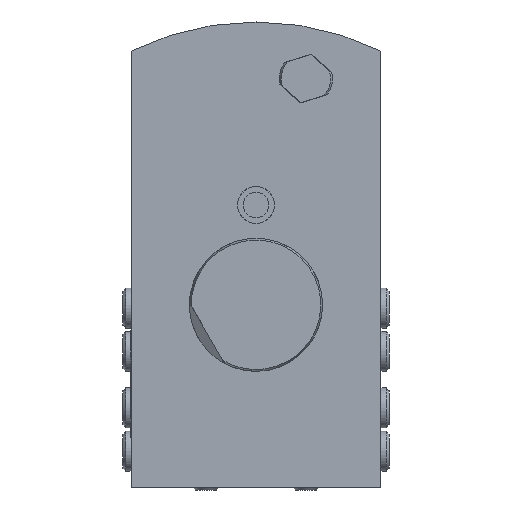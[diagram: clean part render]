
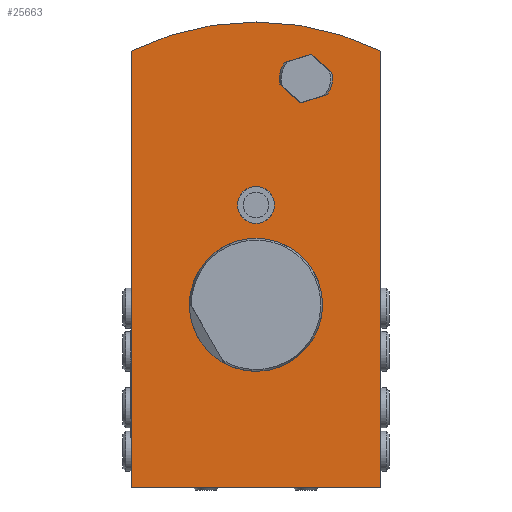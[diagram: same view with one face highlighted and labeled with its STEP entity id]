
A CAD part, left-side view. The second image highlights one B-rep face of the part: STEP entity #25663.
In plain terms, the highlighted planar face has unit normal (-1, 0, 0).
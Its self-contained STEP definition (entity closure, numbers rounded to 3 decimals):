
#11659=VECTOR('',#17983,1.);
#11743=VECTOR('',#18079,1.);
#11750=VECTOR('',#18100,1.);
#11752=VECTOR('',#18126,1.);
#11753=VECTOR('',#18127,1.);
#11754=VECTOR('',#18130,1.);
#11755=VECTOR('',#18131,1.);
#12210=LINE('',#19793,#11659);
#12294=LINE('',#20255,#11743);
#12301=LINE('',#20275,#11750);
#12303=LINE('',#20297,#11752);
#12304=LINE('',#20299,#11753);
#12305=LINE('',#20303,#11754);
#12306=LINE('',#20305,#11755);
#12750=PLANE('',#24972);
#13230=ORIENTED_EDGE('',*,*,#15901,.F.);
#13231=ORIENTED_EDGE('',*,*,#15757,.F.);
#13232=ORIENTED_EDGE('',*,*,#15883,.F.);
#13233=ORIENTED_EDGE('',*,*,#15894,.F.);
#13234=ORIENTED_EDGE('',*,*,#15902,.F.);
#13235=ORIENTED_EDGE('',*,*,#15903,.T.);
#13236=ORIENTED_EDGE('',*,*,#15904,.F.);
#13237=ORIENTED_EDGE('',*,*,#15905,.F.);
#13238=ORIENTED_EDGE('',*,*,#15906,.F.);
#13239=ORIENTED_EDGE('',*,*,#15907,.F.);
#13240=ORIENTED_EDGE('',*,*,#15908,.F.);
#13241=ORIENTED_EDGE('',*,*,#15909,.F.);
#14918=CIRCLE('',#24971,85.);
#14919=CIRCLE('',#24973,5.55);
#14920=CIRCLE('',#24974,20.);
#14921=CIRCLE('',#24975,8.);
#14922=CIRCLE('',#24976,8.);
#15079=VERTEX_POINT('',#19789);
#15081=VERTEX_POINT('',#19792);
#15205=VERTEX_POINT('',#20253);
#15211=VERTEX_POINT('',#20273);
#15216=VERTEX_POINT('',#20291);
#15217=VERTEX_POINT('',#20293);
#15218=VERTEX_POINT('',#20295);
#15219=VERTEX_POINT('',#20296);
#15220=VERTEX_POINT('',#20298);
#15221=VERTEX_POINT('',#20300);
#15222=VERTEX_POINT('',#20302);
#15223=VERTEX_POINT('',#20304);
#15757=EDGE_CURVE('',#15079,#15081,#12210,.T.);
#15883=EDGE_CURVE('',#15205,#15079,#12294,.T.);
#15894=EDGE_CURVE('',#15211,#15205,#12301,.T.);
#15901=EDGE_CURVE('',#15081,#15211,#14918,.T.);
#15902=EDGE_CURVE('',#15216,#15216,#14919,.T.);
#15903=EDGE_CURVE('',#15217,#15217,#14920,.T.);
#15904=EDGE_CURVE('',#15218,#15219,#12303,.T.);
#15905=EDGE_CURVE('',#15220,#15218,#12304,.T.);
#15906=EDGE_CURVE('',#15221,#15220,#14921,.T.);
#15907=EDGE_CURVE('',#15222,#15221,#12305,.T.);
#15908=EDGE_CURVE('',#15223,#15222,#12306,.T.);
#15909=EDGE_CURVE('',#15219,#15223,#14922,.T.);
#16717=EDGE_LOOP('',(#13230,#13231,#13232,#13233));
#16718=EDGE_LOOP('',(#13234));
#16719=EDGE_LOOP('',(#13235));
#16720=EDGE_LOOP('',(#13236,#13237,#13238,#13239,#13240,#13241));
#17345=FACE_BOUND('',#16717,.T.);
#17346=FACE_BOUND('',#16718,.T.);
#17347=FACE_BOUND('',#16719,.T.);
#17348=FACE_BOUND('',#16720,.T.);
#17983=DIRECTION('',(0.,0.,131.281));
#18079=DIRECTION('',(0.,75.,0.));
#18100=DIRECTION('',(0.,0.,-131.281));
#18118=DIRECTION('',(1.,0.,0.));
#18119=DIRECTION('',(0.,-8.064,84.617));
#18120=DIRECTION('',(-1.,0.,0.));
#18121=DIRECTION('',(0.,1.,0.));
#18122=DIRECTION('',(-1.,0.,0.));
#18123=DIRECTION('',(0.,0.,-5.55));
#18124=DIRECTION('',(1.,0.,0.));
#18125=DIRECTION('',(0.,-20.,0.));
#18126=DIRECTION('',(0.,8.027,-2.531));
#18127=DIRECTION('',(0.,6.205,5.686));
#18128=DIRECTION('',(-1.,0.,0.));
#18129=DIRECTION('',(0.,-6.402,-4.797));
#18130=DIRECTION('',(0.,-8.027,2.531));
#18131=DIRECTION('',(0.,-6.205,-5.686));
#18132=DIRECTION('',(-1.,0.,0.));
#18133=DIRECTION('',(0.,6.402,4.797));
#19789=CARTESIAN_POINT('',(0.,37.5,-55.));
#19792=CARTESIAN_POINT('',(0.,37.5,76.281));
#19793=CARTESIAN_POINT('',(0.,37.5,-55.));
#20253=CARTESIAN_POINT('',(0.,-37.5,-55.));
#20255=CARTESIAN_POINT('',(0.,-37.5,-55.));
#20273=CARTESIAN_POINT('',(0.,-37.5,76.281));
#20275=CARTESIAN_POINT('',(0.,-37.5,76.281));
#20289=CARTESIAN_POINT('',(0.,0.,0.));
#20290=CARTESIAN_POINT('',(0.,37.5,76.281));
#20291=CARTESIAN_POINT('',(0.,0.,24.45));
#20292=CARTESIAN_POINT('',(0.,0.,30.));
#20293=CARTESIAN_POINT('',(0.,0.,20.));
#20294=CARTESIAN_POINT('',(0.,0.,0.));
#20295=CARTESIAN_POINT('',(0.,-16.624,75.328));
#20296=CARTESIAN_POINT('',(0.,-8.598,72.797));
#20297=CARTESIAN_POINT('',(0.,-16.624,75.328));
#20298=CARTESIAN_POINT('',(0.,-22.83,69.642));
#20299=CARTESIAN_POINT('',(0.,-22.83,69.642));
#20300=CARTESIAN_POINT('',(0.,-21.402,63.203));
#20301=CARTESIAN_POINT('',(0.,-15.,68.));
#20302=CARTESIAN_POINT('',(0.,-13.376,60.672));
#20303=CARTESIAN_POINT('',(0.,-13.376,60.672));
#20304=CARTESIAN_POINT('',(0.,-7.17,66.358));
#20305=CARTESIAN_POINT('',(0.,-7.17,66.358));
#20306=CARTESIAN_POINT('',(0.,-15.,68.));
#24971=AXIS2_PLACEMENT_3D('',#20289,#18118,#18119);
#24972=AXIS2_PLACEMENT_3D('',#20290,#18120,#18121);
#24973=AXIS2_PLACEMENT_3D('',#20292,#18122,#18123);
#24974=AXIS2_PLACEMENT_3D('',#20294,#18124,#18125);
#24975=AXIS2_PLACEMENT_3D('',#20301,#18128,#18129);
#24976=AXIS2_PLACEMENT_3D('',#20306,#18132,#18133);
#25663=ADVANCED_FACE('',(#17345,#17346,#17347,#17348),#12750,.T.);
